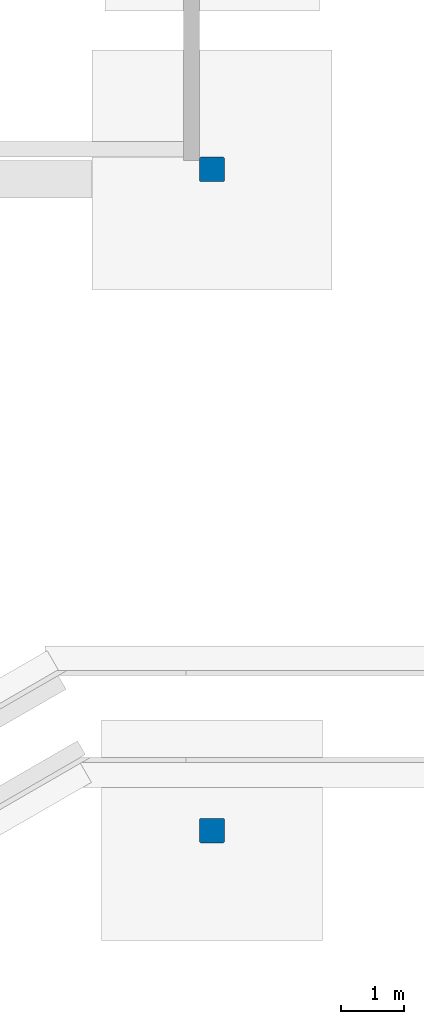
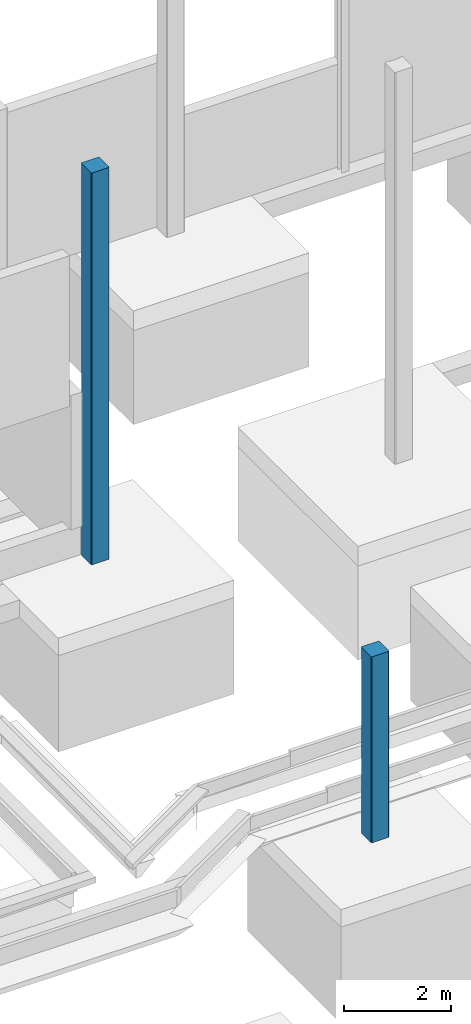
# One storey, part 4 of 12: 2 columns.
"""IFC4X3_ADD2 building model written with IfcOpenShell, lengths in millimetres."""

from ifc_helpers import new_model, si_unit, direction, frame, origin_with_axes, place, context, subcontext, project, spatial, polyline, outline, extrude, element, save


model = new_model("IFC4X3_ADD2")

# Units and contexts
model_context = context("Model", 3, precision=1e-05, world=origin_with_axes(), true_north=direction((0.0, 1.0)))
body_context = subcontext(model_context, "Body", "Model", "MODEL_VIEW")
ifc_project = project(units=[si_unit("LENGTHUNIT", "METRE", prefix="MILLI"), si_unit("AREAUNIT", "SQUARE_METRE"), si_unit("VOLUMEUNIT", "CUBIC_METRE"), si_unit("PLANEANGLEUNIT", "RADIAN"), si_unit("TIMEUNIT", "SECOND"), si_unit("MASSUNIT", "GRAM")], contexts=[model_context])

# Site, building, storey
site_placement = place(None, origin_with_axes())
site = spatial("IfcSite", under=ifc_project, at=site_placement, Name="Site", CompositionType="ELEMENT")
building_placement = place(site_placement, origin_with_axes())
building = spatial("IfcBuilding", under=site, at=building_placement, Name="IFC Building Story")
storey_placement = place(building_placement, frame((0.0, 0.0, -800.0), z_axis=(0.0, 0.0, 1.0), x_axis=(1.0, 0.0, 0.0)))
storey = spatial("IfcBuildingStorey", under=building, at=storey_placement, Name="FOND 00 (0)", Elevation=-800.0)

# Columns
column_1_placement = place(storey_placement, frame((33206.188, 7519.838000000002, 40.0), z_axis=(0.0, 0.0, 1.0), x_axis=(0.0, -1.0, 0.0)))
element("IfcColumn", 1, at=column_1_placement, inside=storey, Name="COLUMN", ObjectType="EB_CR_390*390*15", context=body_context, shape_type="SweptSolid", body=[
    extrude(outline(polyline([(195.0, 179.9999999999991), (195.0, -180.0), (179.9999999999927, -195.0), (-180.0, -195.0), (-195.0000000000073, -179.9999999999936), (-195.0, 179.9999999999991), (-180.0, 194.9999999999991), (179.9999999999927, 194.9999999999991), (195.0, 179.9999999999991)])), frame((195.0000000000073, 195.0, 0.0), z_axis=(0.0, 0.0, 1.0), x_axis=(1.0, 0.0, 0.0)), (0.0, 0.0, 1.0), 4250.0),
])
column_2_placement = place(storey_placement, frame((33206.188, 17610.0, 40.0), z_axis=(0.0, 0.0, 1.0), x_axis=(1.0, 0.0, 0.0)))
element("IfcColumn", 2, at=column_2_placement, inside=storey, Name="COLUMN", ObjectType="EB_CR_390*390*15", context=body_context, shape_type="SweptSolid", body=[
    extrude(outline(polyline([(179.9999999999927, -195.0), (-180.0, -195.0), (-195.0000000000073, -179.9999999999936), (-195.0, 179.9999999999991), (-180.0, 194.9999999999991), (179.9999999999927, 194.9999999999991), (195.0, 179.9999999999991), (195.0, -180.0), (179.9999999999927, -195.0)])), frame((195.0000000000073, 195.0, 0.0), z_axis=(0.0, 0.0, 1.0), x_axis=(1.0, 0.0, 0.0)), (0.0, 0.0, 1.0), 8960.0),
])

save(model, "model.ifc")
